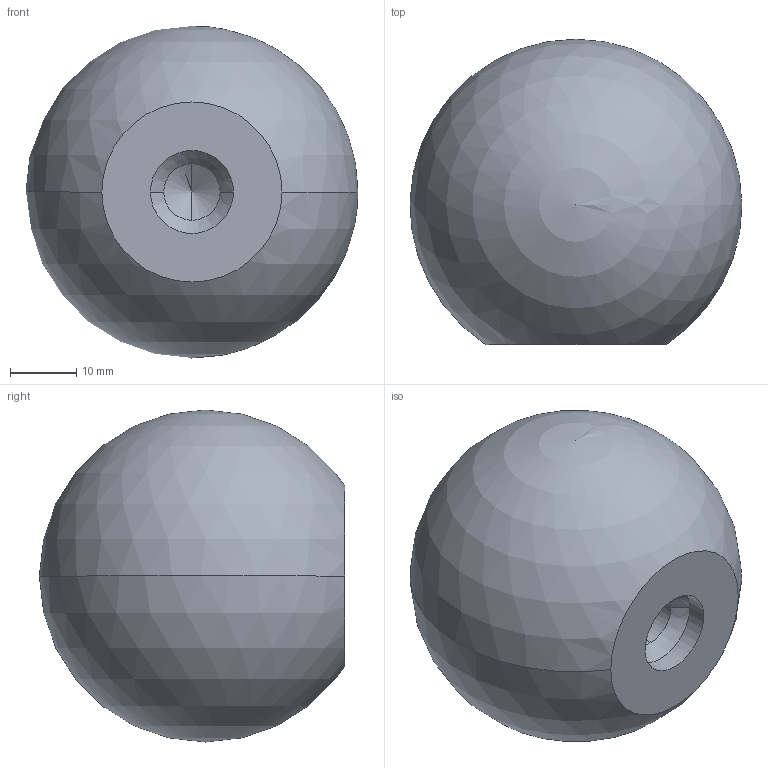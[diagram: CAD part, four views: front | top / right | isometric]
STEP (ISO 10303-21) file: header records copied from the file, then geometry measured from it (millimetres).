
FILE_DESCRIPTION (( 'STEP AP214' ), '1' );
FILE_NAME ('319-KU-50-M10-C.step', '2022-09-20T10:40:55', ( '' ), ( '' ), 'SwSTEP 2.0', 'SolidWorks 2022', '' );
FILE_SCHEMA (( 'AUTOMOTIVE_DESIGN' ));
Length unit declared in the file: millimetre
Products named in the file (1): 319-KU-50-M10-C
Bounding box: 49.99 x 46 x 50 mm (x, y, z)
Volume: 62760.6 mm3; surface area: 8385.6 mm2
Topology: 1 solids, 1 shells, 11 faces, 29 edges, 17 vertices
Faces by surface type: cylinder 4, cone 4, sphere 2, plane 1
Entity records: 350 total; most frequent: DIRECTION 60, CARTESIAN_POINT 48, ORIENTED_EDGE 44, AXIS2_PLACEMENT_3D 26, EDGE_CURVE 22, CIRCLE 14, VERTEX_POINT 14, EDGE_LOOP 12
